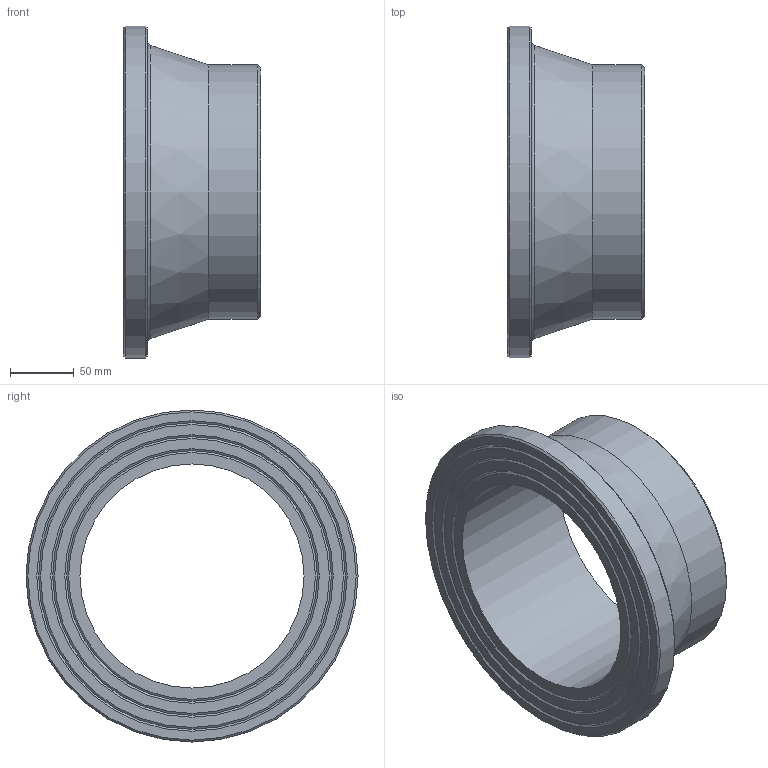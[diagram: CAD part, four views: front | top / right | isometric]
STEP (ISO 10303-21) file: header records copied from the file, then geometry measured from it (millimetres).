
FILE_DESCRIPTION(/* description */ ('Unknown'),/* implementation_level */ '2;1');
FILE_NAME(/* name */ 'CCP200A',/* time_stamp */ '2022-04-05T10:09:06+02:00',/* author */ ('Unknown'),/* organization */ ('Unknown'),/* preprocessor_version */ 'ST-DEVELOPER v18.1',/* originating_system */ 'Solid Edge',/* authorisation */ 'Unknown');
FILE_SCHEMA (('AUTOMOTIVE_DESIGN {1 0 10303 214 3 1 1}'));
Length unit declared in the file: millimetre
Products named in the file (1): CCP200A
Bounding box: 108 x 261 x 261 mm (x, y, z)
Volume: 1427183.3 mm3; surface area: 181390.9 mm2
Topology: 1 solids, 1 shells, 20 faces, 35 edges, 21 vertices
Faces by surface type: cone 10, plane 6, cylinder 3, torus 1
Full cylindrical faces by diameter (mm): 176.2 x1, 200 x1, 261 x1
Entity records: 438 total; most frequent: DIRECTION 82, CARTESIAN_POINT 61, AXIS2_PLACEMENT_3D 41, ORIENTED_EDGE 40, EDGE_LOOP 40, FACE_BOUND 40, EDGE_CURVE 20, VERTEX_POINT 20
